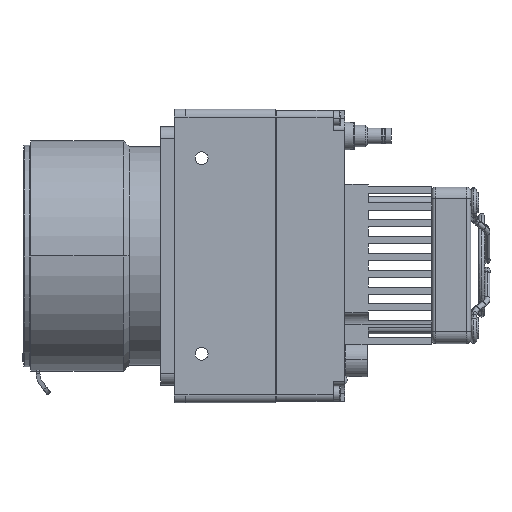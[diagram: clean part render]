
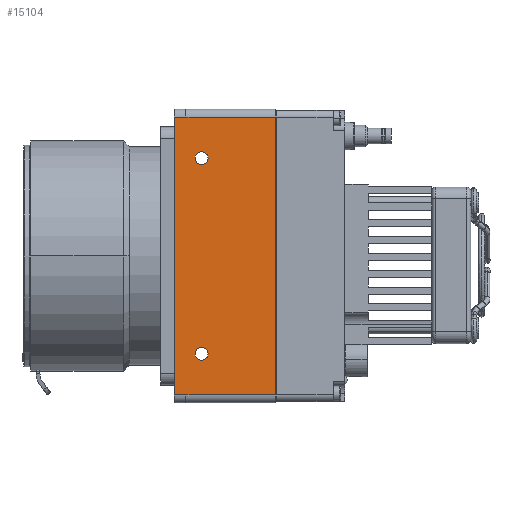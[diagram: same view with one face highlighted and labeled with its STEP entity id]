
A CAD part, left-side view. The second image highlights one B-rep face of the part: STEP entity #15104.
In plain terms, the highlighted planar face has unit normal (-1, 0, 0).
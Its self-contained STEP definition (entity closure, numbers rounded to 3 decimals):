
#421 = VERTEX_POINT ( 'NONE', #36131 ) ;
#674 = VERTEX_POINT ( 'NONE', #18352 ) ;
#936 = DIRECTION ( 'NONE',  ( -1., 0., 0. ) ) ;
#2033 = ORIENTED_EDGE ( 'NONE', *, *, #23902, .T. ) ;
#2068 = ORIENTED_EDGE ( 'NONE', *, *, #20107, .F. ) ;
#2714 = ORIENTED_EDGE ( 'NONE', *, *, #35923, .T. ) ;
#3073 = AXIS2_PLACEMENT_3D ( 'NONE', #24472, #4746, #9542 ) ;
#3096 = DIRECTION ( 'NONE',  ( 0., 1., 0. ) ) ;
#3935 = VERTEX_POINT ( 'NONE', #23213 ) ;
#4059 = CARTESIAN_POINT ( 'NONE',  ( -47.5, 36.6, 25. ) ) ;
#4168 = VERTEX_POINT ( 'NONE', #34549 ) ;
#4411 = ORIENTED_EDGE ( 'NONE', *, *, #24703, .F. ) ;
#4467 = VECTOR ( 'NONE', #16723, 1000. ) ;
#4643 = CARTESIAN_POINT ( 'NONE',  ( -47.5, 36.6, -25. ) ) ;
#4746 = DIRECTION ( 'NONE',  ( 1., 0., 0. ) ) ;
#4782 = DIRECTION ( 'NONE',  ( 0., -1., 0. ) ) ;
#5335 = CIRCLE ( 'NONE', #27911, 1.65 ) ;
#6110 = ORIENTED_EDGE ( 'NONE', *, *, #10187, .T. ) ;
#7041 = DIRECTION ( 'NONE',  ( 0., 1., 0. ) ) ;
#8375 = FACE_BOUND ( 'NONE', #34637, .T. ) ;
#8878 = AXIS2_PLACEMENT_3D ( 'NONE', #4643, #23206, #7041 ) ;
#9148 = VERTEX_POINT ( 'NONE', #22364 ) ;
#9215 = VERTEX_POINT ( 'NONE', #17653 ) ;
#9542 = DIRECTION ( 'NONE',  ( 0., -1., 0. ) ) ;
#10162 = FACE_BOUND ( 'NONE', #18655, .T. ) ;
#10187 = EDGE_CURVE ( 'NONE', #3935, #674, #12064, .T. ) ;
#10456 = EDGE_CURVE ( 'NONE', #9148, #12220, #28794, .T. ) ;
#10824 = CARTESIAN_POINT ( 'NONE',  ( -47.5, 17.75, -35.5 ) ) ;
#11316 = VERTEX_POINT ( 'NONE', #16507 ) ;
#11493 = CARTESIAN_POINT ( 'NONE',  ( -47.5, 36.6, -25. ) ) ;
#12064 = LINE ( 'NONE', #32978, #16354 ) ;
#12220 = VERTEX_POINT ( 'NONE', #15660 ) ;
#12396 = DIRECTION ( 'NONE',  ( 0., 1., 0. ) ) ;
#13314 = EDGE_CURVE ( 'NONE', #674, #14683, #18968, .T. ) ;
#13369 = ORIENTED_EDGE ( 'NONE', *, *, #29336, .F. ) ;
#14683 = VERTEX_POINT ( 'NONE', #15365 ) ;
#14837 = VECTOR ( 'NONE', #12396, 1000. ) ;
#14867 = AXIS2_PLACEMENT_3D ( 'NONE', #21330, #936, #16577 ) ;
#15104 = ADVANCED_FACE ( 'NONE', ( #8375, #10162, #20948 ), #35240, .F. ) ;
#15365 = CARTESIAN_POINT ( 'NONE',  ( -47.5, 43.6, 35.5 ) ) ;
#15405 = VECTOR ( 'NONE', #4782, 1000. ) ;
#15644 = EDGE_CURVE ( 'NONE', #11316, #4168, #24240, .T. ) ;
#15660 = CARTESIAN_POINT ( 'NONE',  ( -47.5, 34.95, -25. ) ) ;
#15923 = CARTESIAN_POINT ( 'NONE',  ( -47.5, 17.75, -35.5 ) ) ;
#16354 = VECTOR ( 'NONE', #21647, 1000. ) ;
#16507 = CARTESIAN_POINT ( 'NONE',  ( -47.5, 43.6, -35.5 ) ) ;
#16577 = DIRECTION ( 'NONE',  ( 0., 1., 0. ) ) ;
#16723 = DIRECTION ( 'NONE',  ( 0., 0., 1. ) ) ;
#17653 = CARTESIAN_POINT ( 'NONE',  ( -47.5, 34.95, 25. ) ) ;
#18352 = CARTESIAN_POINT ( 'NONE',  ( -47.5, 40.6, 35.5 ) ) ;
#18655 = EDGE_LOOP ( 'NONE', ( #25280, #2068 ) ) ;
#18968 = LINE ( 'NONE', #20178, #14837 ) ;
#20107 = EDGE_CURVE ( 'NONE', #12220, #9148, #27116, .T. ) ;
#20178 = CARTESIAN_POINT ( 'NONE',  ( -47.5, 17.75, 35.5 ) ) ;
#20582 = ORIENTED_EDGE ( 'NONE', *, *, #13314, .T. ) ;
#20948 = FACE_OUTER_BOUND ( 'NONE', #33452, .T. ) ;
#21330 = CARTESIAN_POINT ( 'NONE',  ( -47.5, 36.6, 25. ) ) ;
#21647 = DIRECTION ( 'NONE',  ( 0., 1., 0. ) ) ;
#22364 = CARTESIAN_POINT ( 'NONE',  ( -47.5, 38.25, -25. ) ) ;
#22482 = DIRECTION ( 'NONE',  ( 0., -1., 0. ) ) ;
#22881 = DIRECTION ( 'NONE',  ( -1., 0., 0. ) ) ;
#23131 = CARTESIAN_POINT ( 'NONE',  ( -47.5, 38.25, 25. ) ) ;
#23206 = DIRECTION ( 'NONE',  ( -1., 0., 0. ) ) ;
#23213 = CARTESIAN_POINT ( 'NONE',  ( -47.5, 17.7, 35.5 ) ) ;
#23902 = EDGE_CURVE ( 'NONE', #4168, #421, #26902, .T. ) ;
#24240 = LINE ( 'NONE', #15923, #32744 ) ;
#24472 = CARTESIAN_POINT ( 'NONE',  ( -47.5, 17.75, 55.5 ) ) ;
#24622 = ORIENTED_EDGE ( 'NONE', *, *, #15644, .T. ) ;
#24703 = EDGE_CURVE ( 'NONE', #11316, #14683, #26740, .T. ) ;
#25280 = ORIENTED_EDGE ( 'NONE', *, *, #10456, .F. ) ;
#25549 = DIRECTION ( 'NONE',  ( -1., 0., 0. ) ) ;
#26025 = EDGE_CURVE ( 'NONE', #32242, #9215, #34020, .T. ) ;
#26143 = DIRECTION ( 'NONE',  ( 0., 1., 0. ) ) ;
#26740 = LINE ( 'NONE', #27940, #4467 ) ;
#26902 = LINE ( 'NONE', #10824, #15405 ) ;
#27116 = CIRCLE ( 'NONE', #8878, 1.65 ) ;
#27911 = AXIS2_PLACEMENT_3D ( 'NONE', #4059, #25549, #26143 ) ;
#27940 = CARTESIAN_POINT ( 'NONE',  ( -47.5, 43.6, 37.5 ) ) ;
#28308 = CARTESIAN_POINT ( 'NONE',  ( -47.5, 17.7, 53.5 ) ) ;
#28794 = CIRCLE ( 'NONE', #29961, 1.65 ) ;
#28886 = LINE ( 'NONE', #28308, #30704 ) ;
#29336 = EDGE_CURVE ( 'NONE', #9215, #32242, #5335, .T. ) ;
#29494 = DIRECTION ( 'NONE',  ( 0., 0., 1. ) ) ;
#29961 = AXIS2_PLACEMENT_3D ( 'NONE', #11493, #22881, #3096 ) ;
#30704 = VECTOR ( 'NONE', #29494, 1000. ) ;
#32242 = VERTEX_POINT ( 'NONE', #23131 ) ;
#32475 = ORIENTED_EDGE ( 'NONE', *, *, #26025, .F. ) ;
#32744 = VECTOR ( 'NONE', #22482, 1000. ) ;
#32978 = CARTESIAN_POINT ( 'NONE',  ( -47.5, 17.75, 35.5 ) ) ;
#33452 = EDGE_LOOP ( 'NONE', ( #4411, #24622, #2033, #2714, #6110, #20582 ) ) ;
#34020 = CIRCLE ( 'NONE', #14867, 1.65 ) ;
#34549 = CARTESIAN_POINT ( 'NONE',  ( -47.5, 40.6, -35.5 ) ) ;
#34637 = EDGE_LOOP ( 'NONE', ( #32475, #13369 ) ) ;
#35240 = PLANE ( 'NONE',  #3073 ) ;
#35923 = EDGE_CURVE ( 'NONE', #421, #3935, #28886, .T. ) ;
#36131 = CARTESIAN_POINT ( 'NONE',  ( -47.5, 17.7, -35.5 ) ) ;
